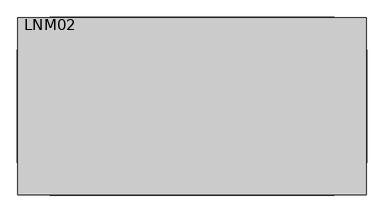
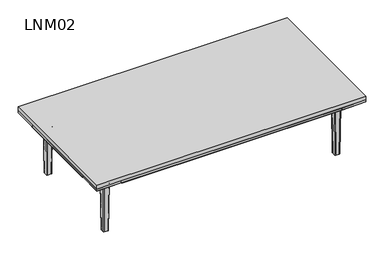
"""IFC4 building model written with IfcOpenShell, lengths in millimetres: furniture geometry, Coffe Tables : LNM02."""

from ifc_helpers import new_model, si_unit, point, frame, origin, place, context, project, spatial, polyline, circle_curve, ellipse_curve, trimmed, outline, extrude, faceted_brep, source, transform, mapped, element, save
from ifc_brep_helpers import plane_surface, cylinder_surface, revolved_surface, extruded_surface, advanced_brep


def lnm02_f6140898(model_context):
    return source(origin(), model_context, "Body", "SolidModel", [
        extrude(outline(polyline([(660.0, -215.0), (660.0, -335.0), (540.0, -335.0), (540.0, -215.0), (660.0, -215.0)])), frame((0.0, 0.0, 290.0), z_axis=(0.0, 0.0, 1.0), x_axis=(1.0, 0.0, 0.0)), (0.0, 0.0, 1.0), 10.0),
        extrude(outline(polyline([(660.0, 335.0), (660.0, 215.0), (540.0, 215.0), (540.0, 335.0), (660.0, 335.0)])), frame((0.0, 0.0, 290.0), z_axis=(0.0, 0.0, 1.0), x_axis=(1.0, 0.0, 0.0)), (0.0, 0.0, 1.0), 10.0),
        extrude(outline(polyline([(-540.0, 335.0), (-540.0, 215.0), (-660.0, 215.0), (-660.0, 335.0), (-540.0, 335.0)])), frame((0.0, 0.0, 290.0), z_axis=(0.0, 0.0, 1.0), x_axis=(1.0, 0.0, 0.0)), (0.0, 0.0, 1.0), 10.0),
        extrude(outline(polyline([(-660.0, 215.0), (-540.0, 215.0), (-540.0, -215.0), (-660.0, -215.0), (-660.0, 215.0)])), frame((0.0, 0.0, 290.0), z_axis=(0.0, 0.0, 1.0), x_axis=(1.0, 0.0, 0.0)), (0.0, 0.0, 1.0), 10.0),
        extrude(outline(polyline([(540.0, 215.0), (660.0, 215.0), (660.0, -215.0), (540.0, -215.0), (540.0, 215.0)])), frame((0.0, 0.0, 290.0), z_axis=(0.0, 0.0, 1.0), x_axis=(1.0, 0.0, 0.0)), (0.0, 0.0, 1.0), 10.0),
        extrude(outline(polyline([(540.0, -215.0), (540.0, -335.0), (-540.0, -335.0), (-540.0, -215.0), (540.0, -215.0)])), frame((0.0, 0.0, 290.0), z_axis=(0.0, 0.0, 1.0), x_axis=(1.0, 0.0, 0.0)), (0.0, 0.0, 1.0), 10.0),
        extrude(outline(polyline([(540.0, 335.0), (540.0, 215.0), (-540.0, 215.0), (-540.0, 335.0), (540.0, 335.0)])), frame((0.0, 0.0, 290.0), z_axis=(0.0, 0.0, 1.0), x_axis=(1.0, 0.0, 0.0)), (0.0, 0.0, 1.0), 10.0),
        extrude(outline(polyline([(290.0, 540.0), (255.0, 540.0), (255.0, 588.7129935), (290.0, 661.7129935), (290.0, 540.0)])), frame((0.0, -215.0, 0.0), z_axis=(0.0, 1.0, 0.0), x_axis=(0.0, 0.0, 1.0)), (0.0, 0.0, 1.0), 430.0),
        extrude(outline(polyline([(290.0, -540.0), (290.0, -661.7129935), (255.0, -588.7129935), (255.0, -540.0), (290.0, -540.0)])), frame((0.0, -215.0, 0.0), z_axis=(0.0, 1.0, 0.0), x_axis=(0.0, 0.0, 1.0)), (0.0, 0.0, 1.0), 430.0),
        extrude(outline(polyline([(215.0, 290.0), (336.7129935, 290.0), (263.7129935, 255.0), (215.0, 255.0), (215.0, 290.0)])), frame((-540.0, 0.0, 0.0), z_axis=(1.0, 0.0, 0.0), x_axis=(0.0, 1.0, 0.0)), (0.0, 0.0, 1.0), 1080.0),
        extrude(outline(polyline([(-215.0, 290.0), (-215.0, 255.0), (-263.7129935, 255.0), (-336.7129935, 290.0), (-215.0, 290.0)])), frame((-540.0, 0.0, 0.0), z_axis=(1.0, 0.0, 0.0), x_axis=(0.0, 1.0, 0.0)), (0.0, 0.0, 1.0), 1080.0),
        faceted_brep([(-540.0, 215.0, 290.0), (-540.0, 335.0, 290.0), (-660.0, 335.0, 290.0), (-660.0, 215.0, 290.0), (-540.0, 215.0, 255.0), (-587.0, 215.0, 255.0), (-587.0, 262.0, 255.0), (-540.0, 262.0, 255.0)], [[[0, 1, 2, 3]], [[4, 5, 6, 7]], [[1, 0, 4, 7]], [[0, 3, 5, 4]], [[6, 2, 1, 7]], [[2, 6, 5, 3]]]),
        advanced_brep(
        [(-547.0, 230.0, 255.0), (-547.0, 254.0, 255.0), (-555.0, 262.0, 255.0), (-579.0, 262.0, 255.0), (-587.0, 254.0, 255.0), (-587.0, 230.0, 255.0), (-579.0, 222.0, 255.0), (-555.0, 222.0, 255.0), (-579.0, 227.0, 245.0), (-582.0, 230.0, 245.0), (-582.0, 254.0, 245.0), (-579.0, 257.0, 245.0), (-555.0, 257.0, 245.0), (-552.0, 254.0, 245.0), (-552.0, 230.0, 245.0), (-555.0, 227.0, 245.0), (-547.0, 230.0, 252.0), (-547.0, 254.0, 252.0), (-555.0, 262.0, 252.0), (-579.0, 262.0, 252.0), (-587.0, 254.0, 252.0), (-587.0, 230.0, 252.0), (-579.0, 222.0, 252.0), (-555.0, 222.0, 252.0)],
        [
            (0, 1),
            (1, 2, circle_curve(frame((-555.0, 254.0, 255.0), z_axis=(0.0, 0.0, 1.0), x_axis=(0.0, -1.0000000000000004, 0.0)), 8.0)),
            (2, 3),
            (3, 4, circle_curve(frame((-579.0, 254.0, 255.0), z_axis=(0.0, 0.0, 1.0), x_axis=(0.0, -1.0000000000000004, 0.0)), 8.0)),
            (4, 5),
            (5, 6, circle_curve(frame((-579.0, 230.0, 255.0), z_axis=(0.0, 0.0, 1.0), x_axis=(0.0, -1.0000000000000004, 0.0)), 8.0)),
            (6, 7),
            (7, 0, circle_curve(frame((-555.0, 230.0, 255.0), z_axis=(0.0, 0.0, 1.0), x_axis=(0.0, -1.0000000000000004, 0.0)), 8.0)),
            (8, 9, circle_curve(frame((-579.0, 230.0, 245.0), z_axis=(0.0, 0.0, -1.0), x_axis=(0.0, -1.0000000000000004, 0.0)), 3.0)),
            (9, 10),
            (10, 11, circle_curve(frame((-579.0, 254.0, 245.0), z_axis=(0.0, 0.0, -1.0), x_axis=(-1.0000000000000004, 0.0, 0.0)), 3.0)),
            (11, 12),
            (12, 13, circle_curve(frame((-555.0, 254.0, 245.0), z_axis=(0.0, 0.0, -1.0), x_axis=(0.0, 1.0000000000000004, 0.0)), 3.0)),
            (13, 14),
            (14, 15, circle_curve(frame((-555.0, 230.0, 245.0), z_axis=(0.0, 0.0, -1.0), x_axis=(1.0000000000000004, 0.0, 0.0)), 3.0)),
            (15, 8),
            (0, 16),
            (16, 17),
            (17, 1),
            (17, 18, circle_curve(frame((-555.0, 254.0, 252.0), z_axis=(0.0, 0.0, 1.0), x_axis=(0.0, -1.0000000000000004, 0.0)), 8.0)),
            (18, 2),
            (18, 19),
            (19, 3),
            (19, 20, circle_curve(frame((-579.0, 254.0, 252.0), z_axis=(0.0, 0.0, 1.0), x_axis=(0.0, -1.0000000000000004, 0.0)), 8.0)),
            (20, 4),
            (20, 21),
            (21, 5),
            (21, 22, circle_curve(frame((-579.0, 230.0, 252.0), z_axis=(0.0, 0.0, 1.0), x_axis=(0.0, -1.0000000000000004, 0.0)), 8.0)),
            (22, 6),
            (22, 23),
            (23, 7),
            (23, 16, circle_curve(frame((-555.0, 230.0, 252.0), z_axis=(0.0, 0.0, 1.0), x_axis=(0.0, -1.0000000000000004, 0.0)), 8.0)),
            (21, 9, circle_curve(frame((-590.9600528, 230.0, 243.8856766), z_axis=(0.0, 1.0000000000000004, 0.0), x_axis=(-1.0000000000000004, 0.0, 0.0)), 9.0290787)),
            (8, 22, circle_curve(frame((-579.0, 218.0399472, 243.8856766), z_axis=(1.0000000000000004, 0.0, 0.0), x_axis=(0.0, -1.0000000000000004, 0.0)), 9.0290787)),
            (20, 10, circle_curve(frame((-590.9600528, 254.0, 243.8856766), z_axis=(0.0, 1.0, 0.0), x_axis=(-1.0000000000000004, 0.0, 0.0)), 9.0290787)),
            (19, 11, circle_curve(frame((-579.0, 265.9600528, 243.8856766), z_axis=(1.0000000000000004, 0.0, 0.0), x_axis=(0.0, 1.0000000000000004, 0.0)), 9.0290787)),
            (18, 12, circle_curve(frame((-555.0, 265.9600528, 243.8856766), z_axis=(1.0, 0.0, 0.0), x_axis=(0.0, 1.0000000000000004, 0.0)), 9.0290787)),
            (17, 13, circle_curve(frame((-543.0399472, 254.0, 243.8856766), z_axis=(0.0, -1.0000000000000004, 0.0), x_axis=(1.0000000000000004, 0.0, 0.0)), 9.0290787)),
            (16, 14, circle_curve(frame((-543.0399472, 230.0, 243.8856766), z_axis=(0.0, -1.0, 0.0), x_axis=(1.0000000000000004, 0.0, 0.0)), 9.0290787)),
            (23, 15, circle_curve(frame((-555.0, 218.0399472, 243.8856766), z_axis=(-1.0000000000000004, 0.0, 0.0), x_axis=(0.0, -1.0000000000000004, 0.0)), 9.0290787)),
        ],
        [
            plane_surface(frame((-547.0, 915.663284, 255.0), z_axis=(0.0, 0.0, 1.0), x_axis=(0.0, 1.0, 0.0))),
            plane_surface(frame((-547.0, 915.663284, 245.0), z_axis=(0.0, 0.0, -1.0), x_axis=(0.0, -1.0, 0.0))),
            plane_surface(frame((-547.0, 230.0, 255.0), z_axis=(1.0, 0.0, 0.0), x_axis=(0.0, 0.0, -1.0))),
            cylinder_surface(frame((-555.0, 254.0, 245.0), z_axis=(0.0, 0.0, 1.0), x_axis=(0.0, -1.0000000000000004, 0.0)), 8.0),
            plane_surface(frame((-555.0, 262.0, 255.0), z_axis=(0.0, 1.0, 0.0), x_axis=(0.0, 0.0, -1.0))),
            cylinder_surface(frame((-579.0, 254.0, 245.0), z_axis=(0.0, 0.0, 1.0), x_axis=(0.0, -1.0000000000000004, 0.0)), 8.0),
            plane_surface(frame((-587.0, 254.0, 255.0), z_axis=(-1.0, 0.0, 0.0), x_axis=(0.0, 0.0, -1.0))),
            cylinder_surface(frame((-579.0, 230.0, 245.0), z_axis=(0.0, 0.0, 1.0), x_axis=(0.0, -1.0000000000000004, 0.0)), 8.0),
            plane_surface(frame((-579.0, 222.0, 255.0), z_axis=(0.0, -1.0, 0.0), x_axis=(0.0, 0.0, -1.0))),
            cylinder_surface(frame((-555.0, 230.0, 245.0), z_axis=(0.0, 0.0, 1.0), x_axis=(0.0, -1.0000000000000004, 0.0)), 8.0),
            revolved_surface(trimmed(ellipse_curve(frame((-579.0, 218.0399472, 243.8856766), z_axis=(-1.0000000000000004, 0.0, 0.0), x_axis=(0.0, -1.0000000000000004, 0.0)), 9.0290787, 9.0290787), [point((-579.0, 222.0, 252.0))], [point((-579.0, 227.0, 245.0))], True, "CARTESIAN"), (-579.0, 230.0, 0.0), (0.0, 0.0, -1.0)),
            revolved_surface(polyline([(-599.9891315, 230.0, 243.8856766), (-599.9891315, 254.00000000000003, 243.8856766)]), (-590.9600528, 230.0, 243.8856766), (0.0, -1.0000000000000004, 0.0)),
            revolved_surface(trimmed(ellipse_curve(frame((-590.9600528, 254.0, 243.8856766), z_axis=(0.0, 1.0000000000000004, 0.0), x_axis=(-1.0000000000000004, 0.0, 0.0)), 9.0290787, 9.0290787), [point((-587.0, 254.0, 252.0))], [point((-582.0, 254.0, 245.0))], True, "CARTESIAN"), (-579.0, 254.0, 0.0), (0.0, 0.0, -1.0)),
            revolved_surface(polyline([(-579.0, 274.98913150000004, 243.8856766), (-555.0, 274.98913150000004, 243.8856766)]), (-579.0, 265.9600528, 243.8856766), (-1.0000000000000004, 0.0, 0.0)),
            revolved_surface(trimmed(ellipse_curve(frame((-555.0, 265.9600528, 243.8856766), z_axis=(1.0000000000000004, 0.0, 0.0), x_axis=(0.0, 1.0000000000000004, 0.0)), 9.0290787, 9.0290787), [point((-555.0, 262.0, 252.0))], [point((-555.0, 257.0, 245.0))], True, "CARTESIAN"), (-555.0, 254.0, 0.0), (0.0, 0.0, -1.0)),
            revolved_surface(polyline([(-534.0108685, 254.0, 243.8856766), (-534.0108685, 229.99999999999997, 243.8856766)]), (-543.0399472, 254.0, 243.8856766), (0.0, 1.0000000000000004, 0.0)),
            revolved_surface(trimmed(ellipse_curve(frame((-543.0399472, 230.0, 243.8856766), z_axis=(0.0, -1.0000000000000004, 0.0), x_axis=(1.0000000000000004, 0.0, 0.0)), 9.0290787, 9.0290787), [point((-547.0, 230.0, 252.0))], [point((-552.0, 230.0, 245.0))], True, "CARTESIAN"), (-555.0, 230.0, 0.0), (0.0, 0.0, -1.0)),
            revolved_surface(polyline([(-555.0, 209.0108685, 243.8856766), (-579.0, 209.0108685, 243.8856766)]), (-555.0, 218.0399472, 243.8856766), (1.0000000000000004, 0.0, 0.0)),
        ],
        [
            (0, [[1, 2, 3, 4, 5, 6, 7, 8]]),
            (1, [[9, 10, 11, 12, 13, 14, 15, 16]]),
            (2, [[-1, 17, 18, 19]]),
            (3, [[-2, -19, 20, 21]]),
            (4, [[-3, -21, 22, 23]]),
            (5, [[-4, -23, 24, 25]]),
            (6, [[-5, -25, 26, 27]]),
            (7, [[-6, -27, 28, 29]]),
            (8, [[-7, -29, 30, 31]]),
            (9, [[-8, -31, 32, -17]]),
            (10, [[33, -9, 34, -28]]),
            (11, [[-33, -26, 35, -10]]),
            (12, [[-35, -24, 36, -11]]),
            (13, [[-36, -22, 37, -12]]),
            (14, [[-37, -20, 38, -13]]),
            (15, [[-38, -18, 39, -14]]),
            (16, [[-39, -32, 40, -15]]),
            (17, [[-34, -16, -40, -30]]),
        ],
    ),
        advanced_brep(
        [(-579.0, 257.0, 245.0), (-582.0, 254.0, 245.0), (-582.0, 230.0, 245.0), (-579.0, 227.0, 245.0), (-555.0, 227.0, 245.0), (-552.0, 230.0, 245.0), (-552.0, 254.0, 245.0), (-555.0, 257.0, 245.0), (-576.0, 254.0, 0.0), (-558.0, 254.0, 0.0), (-555.0, 251.0, 0.0), (-555.0, 233.0, 0.0), (-558.0, 230.0, 0.0), (-576.0, 230.0, 0.0), (-579.0, 233.0, 0.0), (-579.0, 251.0, 0.0)],
        [
            (0, 1, circle_curve(frame((-579.0, 254.0, 245.0), z_axis=(0.0, 0.0, 1.0), x_axis=(0.0, -1.0, 0.0)), 3.0)),
            (1, 2),
            (2, 3, circle_curve(frame((-579.0, 230.0, 245.0), z_axis=(0.0, 0.0, 1.0), x_axis=(0.0, -1.0, 0.0)), 3.0)),
            (3, 4),
            (4, 5, circle_curve(frame((-555.0, 230.0, 245.0), z_axis=(0.0, 0.0, 1.0), x_axis=(0.0, -1.0, 0.0)), 3.0)),
            (5, 6),
            (6, 7, circle_curve(frame((-555.0, 254.0, 245.0), z_axis=(0.0, 0.0, 1.0), x_axis=(0.0, -1.0, 0.0)), 3.0)),
            (7, 0),
            (8, 9),
            (9, 10, circle_curve(frame((-558.0, 251.0, 0.0), z_axis=(0.0, 0.0, -1.0), x_axis=(0.0, -1.0, 0.0)), 3.0)),
            (10, 11),
            (11, 12, circle_curve(frame((-558.0, 233.0, 0.0), z_axis=(0.0, 0.0, -1.0), x_axis=(0.0, -1.0, 0.0)), 3.0)),
            (12, 13),
            (13, 14, circle_curve(frame((-576.0, 233.0, 0.0), z_axis=(0.0, 0.0, -1.0), x_axis=(0.0, -1.0, 0.0)), 3.0)),
            (14, 15),
            (15, 8, circle_curve(frame((-576.0, 251.0, 0.0), z_axis=(0.0, 0.0, -1.0), x_axis=(0.0, -1.0, 0.0)), 3.0)),
            (15, 1),
            (0, 8),
            (14, 2),
            (13, 3),
            (12, 4),
            (11, 5),
            (10, 6),
            (9, 7),
        ],
        [
            plane_surface(frame((-567.0, 242.0, 245.0), z_axis=(0.0, 0.0, 1.0), x_axis=(0.0, 1.0, 0.0))),
            plane_surface(frame((-567.0, 242.0, 0.0), z_axis=(0.0, 0.0, -1.0), x_axis=(0.0, 1.0, 0.0))),
            extruded_surface(trimmed(circle_curve(frame((-576.0, 251.0, 0.0), z_axis=(0.0, 0.0, 1.0), x_axis=(0.0, -1.0, 0.0)), 3.0), [point((-576.0, 254.0, 0.0))], [point((-579.0, 251.0, 0.0))], True, "CARTESIAN"), (-3.0, 3.0, 245.0), 245.03673194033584),
            plane_surface(frame((-579.0, 242.0, 0.0), z_axis=(-0.9999250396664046, 0.0, -0.012243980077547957), x_axis=(0.0, -1.0, 0.0))),
            extruded_surface(trimmed(circle_curve(frame((-576.0, 233.0, 0.0), z_axis=(0.0, 0.0, 1.0), x_axis=(0.0, -1.0, 0.0)), 3.0), [point((-579.0, 233.0, 0.0))], [point((-576.0, 230.0, 0.0))], True, "CARTESIAN"), (-3.0, -3.0, 245.0), 245.03673194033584),
            plane_surface(frame((-567.0, 230.0, 0.0), z_axis=(0.0, -0.9999250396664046, -0.012243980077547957), x_axis=(1.0, 0.0, 0.0))),
            extruded_surface(trimmed(circle_curve(frame((-558.0, 233.0, 0.0), z_axis=(0.0, 0.0, 1.0), x_axis=(0.0, -1.0, 0.0)), 3.0), [point((-558.0, 230.0, 0.0))], [point((-555.0, 233.0, 0.0))], True, "CARTESIAN"), (3.0, -3.0, 245.0), 245.03673194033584),
            plane_surface(frame((-555.0, 242.0, 0.0), z_axis=(0.9999250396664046, 0.0, -0.012243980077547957), x_axis=(0.0, 1.0, 0.0))),
            extruded_surface(trimmed(circle_curve(frame((-558.0, 251.0, 0.0), z_axis=(0.0, 0.0, 1.0), x_axis=(0.0, -1.0, 0.0)), 3.0), [point((-555.0, 251.0, 0.0))], [point((-558.0, 254.0, 0.0))], True, "CARTESIAN"), (3.0, 3.0, 245.0), 245.03673194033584),
            plane_surface(frame((-567.0, 254.0, 0.0), z_axis=(0.0, 0.9999250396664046, -0.012243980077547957), x_axis=(-1.0, 0.0, 0.0))),
        ],
        [
            (0, [[1, 2, 3, 4, 5, 6, 7, 8]]),
            (1, [[9, 10, 11, 12, 13, 14, 15, 16]]),
            (2, [[-16, 17, -1, 18]]),
            (3, [[-15, 19, -2, -17]]),
            (4, [[-14, 20, -3, -19]]),
            (5, [[-13, 21, -4, -20]]),
            (6, [[-12, 22, -5, -21]]),
            (7, [[-11, 23, -6, -22]]),
            (8, [[-10, 24, -7, -23]]),
            (9, [[-9, -18, -8, -24]]),
        ],
    ),
        faceted_brep([(540.0, -215.0, 290.0), (540.0, -335.0, 290.0), (660.0, -335.0, 290.0), (660.0, -215.0, 290.0), (540.0, -215.0, 255.0), (587.0, -215.0, 255.0), (587.0, -262.0, 255.0), (540.0, -262.0, 255.0)], [[[0, 1, 2, 3]], [[4, 5, 6, 7]], [[1, 0, 4, 7]], [[0, 3, 5, 4]], [[6, 2, 1, 7]], [[2, 6, 5, 3]]]),
        advanced_brep(
        [(547.0, -230.0, 255.0), (547.0, -254.0, 255.0), (555.0, -262.0, 255.0), (579.0, -262.0, 255.0), (587.0, -254.0, 255.0), (587.0, -230.0, 255.0), (579.0, -222.0, 255.0), (555.0, -222.0, 255.0), (579.0, -227.0, 245.0), (582.0, -230.0, 245.0), (582.0, -254.0, 245.0), (579.0, -257.0, 245.0), (555.0, -257.0, 245.0), (552.0, -254.0, 245.0), (552.0, -230.0, 245.0), (555.0, -227.0, 245.0), (547.0, -230.0, 252.0), (547.0, -254.0, 252.0), (555.0, -262.0, 252.0), (579.0, -262.0, 252.0), (587.0, -254.0, 252.0), (587.0, -230.0, 252.0), (579.0, -222.0, 252.0), (555.0, -222.0, 252.0)],
        [
            (0, 1),
            (1, 2, circle_curve(frame((555.0, -254.0, 255.0), z_axis=(0.0, 0.0, 1.0), x_axis=(0.0, 1.0000000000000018, 0.0)), 8.0)),
            (2, 3),
            (3, 4, circle_curve(frame((579.0, -254.0, 255.0), z_axis=(0.0, 0.0, 1.0), x_axis=(0.0, 1.0000000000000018, 0.0)), 8.0)),
            (4, 5),
            (5, 6, circle_curve(frame((579.0, -230.0, 255.0), z_axis=(0.0, 0.0, 1.0), x_axis=(0.0, 1.0000000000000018, 0.0)), 8.0)),
            (6, 7),
            (7, 0, circle_curve(frame((555.0, -230.0, 255.0), z_axis=(0.0, 0.0, 1.0), x_axis=(0.0, 1.0000000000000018, 0.0)), 8.0)),
            (8, 9, circle_curve(frame((579.0, -230.0, 245.0), z_axis=(0.0, 0.0, -1.0), x_axis=(0.0, 1.0000000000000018, 0.0)), 3.0)),
            (9, 10),
            (10, 11, circle_curve(frame((579.0, -254.0, 245.0), z_axis=(0.0, 0.0, -1.0), x_axis=(1.0000000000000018, 0.0, 0.0)), 3.0)),
            (11, 12),
            (12, 13, circle_curve(frame((555.0, -254.0, 245.0), z_axis=(0.0, 0.0, -1.0), x_axis=(0.0, -1.0000000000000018, 0.0)), 3.0)),
            (13, 14),
            (14, 15, circle_curve(frame((555.0, -230.0, 245.0), z_axis=(0.0, 0.0, -1.0), x_axis=(-1.0000000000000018, 0.0, 0.0)), 3.0)),
            (15, 8),
            (0, 16),
            (16, 17),
            (17, 1),
            (17, 18, circle_curve(frame((555.0, -254.0, 252.0), z_axis=(0.0, 0.0, 1.0), x_axis=(0.0, 1.0000000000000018, 0.0)), 8.0)),
            (18, 2),
            (18, 19),
            (19, 3),
            (19, 20, circle_curve(frame((579.0, -254.0, 252.0), z_axis=(0.0, 0.0, 1.0), x_axis=(0.0, 1.0000000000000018, 0.0)), 8.0)),
            (20, 4),
            (20, 21),
            (21, 5),
            (21, 22, circle_curve(frame((579.0, -230.0, 252.0), z_axis=(0.0, 0.0, 1.0), x_axis=(0.0, 1.0000000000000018, 0.0)), 8.0)),
            (22, 6),
            (22, 23),
            (23, 7),
            (23, 16, circle_curve(frame((555.0, -230.0, 252.0), z_axis=(0.0, 0.0, 1.0), x_axis=(0.0, 1.0000000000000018, 0.0)), 8.0)),
            (21, 9, circle_curve(frame((590.9600528, -230.0, 243.8856766), z_axis=(0.0, -1.0000000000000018, 0.0), x_axis=(1.0000000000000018, 0.0, 0.0)), 9.0290787)),
            (8, 22, circle_curve(frame((579.0, -218.0399472, 243.8856766), z_axis=(-1.0000000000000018, 0.0, 0.0), x_axis=(0.0, 1.0000000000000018, 0.0)), 9.0290787)),
            (20, 10, circle_curve(frame((590.9600528, -254.0, 243.8856766), z_axis=(0.0, -1.0, 0.0), x_axis=(1.0000000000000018, 0.0, 0.0)), 9.0290787)),
            (19, 11, circle_curve(frame((579.0, -265.9600528, 243.8856766), z_axis=(-1.0000000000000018, 0.0, 0.0), x_axis=(0.0, -1.0000000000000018, 0.0)), 9.0290787)),
            (18, 12, circle_curve(frame((555.0, -265.9600528, 243.8856766), z_axis=(-1.0, 0.0, 0.0), x_axis=(0.0, -1.0000000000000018, 0.0)), 9.0290787)),
            (17, 13, circle_curve(frame((543.0399472, -254.0, 243.8856766), z_axis=(0.0, 1.0000000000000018, 0.0), x_axis=(-1.0000000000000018, 0.0, 0.0)), 9.0290787)),
            (16, 14, circle_curve(frame((543.0399472, -230.0, 243.8856766), z_axis=(0.0, 1.0, 0.0), x_axis=(-1.0000000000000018, 0.0, 0.0)), 9.0290787)),
            (23, 15, circle_curve(frame((555.0, -218.0399472, 243.8856766), z_axis=(1.0000000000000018, 0.0, 0.0), x_axis=(0.0, 1.0000000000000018, 0.0)), 9.0290787)),
        ],
        [
            plane_surface(frame((547.0, -915.663284, 255.0), z_axis=(0.0, 0.0, 1.0), x_axis=(0.0, -1.0, 0.0))),
            plane_surface(frame((547.0, -915.663284, 245.0), z_axis=(0.0, 0.0, -1.0), x_axis=(0.0, 1.0, 0.0))),
            plane_surface(frame((547.0, -230.0, 255.0), z_axis=(-1.0, 0.0, 0.0), x_axis=(0.0, 0.0, -1.0))),
            cylinder_surface(frame((555.0, -254.0, 245.0), z_axis=(0.0, 0.0, 1.0), x_axis=(0.0, 1.0000000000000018, 0.0)), 8.0),
            plane_surface(frame((555.0, -262.0, 255.0), z_axis=(0.0, -1.0, 0.0), x_axis=(0.0, 0.0, -1.0))),
            cylinder_surface(frame((579.0, -254.0, 245.0), z_axis=(0.0, 0.0, 1.0), x_axis=(0.0, 1.0000000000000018, 0.0)), 8.0),
            plane_surface(frame((587.0, -254.0, 255.0), z_axis=(1.0, 0.0, 0.0), x_axis=(0.0, 0.0, -1.0))),
            cylinder_surface(frame((579.0, -230.0, 245.0), z_axis=(0.0, 0.0, 1.0), x_axis=(0.0, 1.0000000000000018, 0.0)), 8.0),
            plane_surface(frame((579.0, -222.0, 255.0), z_axis=(0.0, 1.0, 0.0), x_axis=(0.0, 0.0, -1.0))),
            cylinder_surface(frame((555.0, -230.0, 245.0), z_axis=(0.0, 0.0, 1.0), x_axis=(0.0, 1.0000000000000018, 0.0)), 8.0),
            revolved_surface(trimmed(ellipse_curve(frame((579.0, -218.0399472, 243.8856766), z_axis=(1.0000000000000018, 0.0, 0.0), x_axis=(0.0, 1.0000000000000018, 0.0)), 9.0290787, 9.0290787), [point((579.0, -222.0, 252.0))], [point((579.0, -227.0, 245.0))], True, "CARTESIAN"), (579.0, -230.0, 0.0), (0.0, 0.0, -1.0)),
            revolved_surface(polyline([(599.9891315, -230.0, 243.8856766), (599.9891315, -254.00000000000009, 243.8856766)]), (590.9600528, -230.0, 243.8856766), (0.0, 1.0000000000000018, 0.0)),
            revolved_surface(trimmed(ellipse_curve(frame((590.9600528, -254.0, 243.8856766), z_axis=(0.0, -1.0000000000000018, 0.0), x_axis=(1.0000000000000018, 0.0, 0.0)), 9.0290787, 9.0290787), [point((587.0, -254.0, 252.0))], [point((582.0, -254.0, 245.0))], True, "CARTESIAN"), (579.0, -254.0, 0.0), (0.0, 0.0, -1.0)),
            revolved_surface(polyline([(579.0, -274.98913150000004, 243.8856766), (554.9999999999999, -274.98913150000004, 243.8856766)]), (579.0, -265.9600528, 243.8856766), (1.0000000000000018, 0.0, 0.0)),
            revolved_surface(trimmed(ellipse_curve(frame((555.0, -265.9600528, 243.8856766), z_axis=(-1.0000000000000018, 0.0, 0.0), x_axis=(0.0, -1.0000000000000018, 0.0)), 9.0290787, 9.0290787), [point((555.0, -262.0, 252.0))], [point((555.0, -257.0, 245.0))], True, "CARTESIAN"), (555.0, -254.0, 0.0), (0.0, 0.0, -1.0)),
            revolved_surface(polyline([(534.0108685, -254.0, 243.8856766), (534.0108685, -229.99999999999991, 243.8856766)]), (543.0399472, -254.0, 243.8856766), (0.0, -1.0000000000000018, 0.0)),
            revolved_surface(trimmed(ellipse_curve(frame((543.0399472, -230.0, 243.8856766), z_axis=(0.0, 1.0000000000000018, 0.0), x_axis=(-1.0000000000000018, 0.0, 0.0)), 9.0290787, 9.0290787), [point((547.0, -230.0, 252.0))], [point((552.0, -230.0, 245.0))], True, "CARTESIAN"), (555.0, -230.0, 0.0), (0.0, 0.0, -1.0)),
            revolved_surface(polyline([(555.0, -209.0108685, 243.8856766), (579.0000000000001, -209.0108685, 243.8856766)]), (555.0, -218.0399472, 243.8856766), (-1.0000000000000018, 0.0, 0.0)),
        ],
        [
            (0, [[1, 2, 3, 4, 5, 6, 7, 8]]),
            (1, [[9, 10, 11, 12, 13, 14, 15, 16]]),
            (2, [[-1, 17, 18, 19]]),
            (3, [[-2, -19, 20, 21]]),
            (4, [[-3, -21, 22, 23]]),
            (5, [[-4, -23, 24, 25]]),
            (6, [[-5, -25, 26, 27]]),
            (7, [[-6, -27, 28, 29]]),
            (8, [[-7, -29, 30, 31]]),
            (9, [[-8, -31, 32, -17]]),
            (10, [[33, -9, 34, -28]]),
            (11, [[-33, -26, 35, -10]]),
            (12, [[-35, -24, 36, -11]]),
            (13, [[-36, -22, 37, -12]]),
            (14, [[-37, -20, 38, -13]]),
            (15, [[-38, -18, 39, -14]]),
            (16, [[-39, -32, 40, -15]]),
            (17, [[-34, -16, -40, -30]]),
        ],
    ),
        advanced_brep(
        [(579.0, -257.0, 245.0), (582.0, -254.0, 245.0), (582.0, -230.0, 245.0), (579.0, -227.0, 245.0), (555.0, -227.0, 245.0), (552.0, -230.0, 245.0), (552.0, -254.0, 245.0), (555.0, -257.0, 245.0), (576.0, -254.0, 0.0), (558.0, -254.0, 0.0), (555.0, -251.0, 0.0), (555.0, -233.0, 0.0), (558.0, -230.0, 0.0), (576.0, -230.0, 0.0), (579.0, -233.0, 0.0), (579.0, -251.0, 0.0)],
        [
            (0, 1, circle_curve(frame((579.0, -254.0, 245.0), z_axis=(0.0, 0.0, 1.0), x_axis=(0.0, 1.0, 0.0)), 3.0)),
            (1, 2),
            (2, 3, circle_curve(frame((579.0, -230.0, 245.0), z_axis=(0.0, 0.0, 1.0), x_axis=(0.0, 1.0, 0.0)), 3.0)),
            (3, 4),
            (4, 5, circle_curve(frame((555.0, -230.0, 245.0), z_axis=(0.0, 0.0, 1.0), x_axis=(0.0, 1.0, 0.0)), 3.0)),
            (5, 6),
            (6, 7, circle_curve(frame((555.0, -254.0, 245.0), z_axis=(0.0, 0.0, 1.0), x_axis=(0.0, 1.0, 0.0)), 3.0)),
            (7, 0),
            (8, 9),
            (9, 10, circle_curve(frame((558.0, -251.0, 0.0), z_axis=(0.0, 0.0, -1.0), x_axis=(0.0, 1.0, 0.0)), 3.0)),
            (10, 11),
            (11, 12, circle_curve(frame((558.0, -233.0, 0.0), z_axis=(0.0, 0.0, -1.0), x_axis=(0.0, 1.0, 0.0)), 3.0)),
            (12, 13),
            (13, 14, circle_curve(frame((576.0, -233.0, 0.0), z_axis=(0.0, 0.0, -1.0), x_axis=(0.0, 1.0, 0.0)), 3.0)),
            (14, 15),
            (15, 8, circle_curve(frame((576.0, -251.0, 0.0), z_axis=(0.0, 0.0, -1.0), x_axis=(0.0, 1.0, 0.0)), 3.0)),
            (15, 1),
            (0, 8),
            (14, 2),
            (13, 3),
            (12, 4),
            (11, 5),
            (10, 6),
            (9, 7),
        ],
        [
            plane_surface(frame((567.0, -242.0, 245.0), z_axis=(0.0, 0.0, 1.0), x_axis=(0.0, -1.0, 0.0))),
            plane_surface(frame((567.0, -242.0, 0.0), z_axis=(0.0, 0.0, -1.0), x_axis=(0.0, -1.0, 0.0))),
            extruded_surface(trimmed(circle_curve(frame((576.0, -251.0, 0.0), z_axis=(0.0, 0.0, 1.0), x_axis=(0.0, 1.0, 0.0)), 3.0), [point((576.0, -254.0, 0.0))], [point((579.0, -251.0, 0.0))], True, "CARTESIAN"), (3.0, -3.0, 245.0), 245.03673194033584),
            plane_surface(frame((579.0, -242.0, 0.0), z_axis=(0.9999250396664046, 0.0, -0.012243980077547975), x_axis=(0.0, 1.0, 0.0))),
            extruded_surface(trimmed(circle_curve(frame((576.0, -233.0, 0.0), z_axis=(0.0, 0.0, 1.0), x_axis=(0.0, 1.0, 0.0)), 3.0), [point((579.0, -233.0, 0.0))], [point((576.0, -230.0, 0.0))], True, "CARTESIAN"), (3.0, 3.0, 245.0), 245.03673194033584),
            plane_surface(frame((567.0, -230.0, 0.0), z_axis=(0.0, 0.9999250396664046, -0.012243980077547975), x_axis=(-1.0, 0.0, 0.0))),
            extruded_surface(trimmed(circle_curve(frame((558.0, -233.0, 0.0), z_axis=(0.0, 0.0, 1.0), x_axis=(0.0, 1.0, 0.0)), 3.0), [point((558.0, -230.0, 0.0))], [point((555.0, -233.0, 0.0))], True, "CARTESIAN"), (-3.0, 3.0, 245.0), 245.03673194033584),
            plane_surface(frame((555.0, -242.0, 0.0), z_axis=(-0.9999250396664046, 0.0, -0.012243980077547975), x_axis=(0.0, -1.0, 0.0))),
            extruded_surface(trimmed(circle_curve(frame((558.0, -251.0, 0.0), z_axis=(0.0, 0.0, 1.0), x_axis=(0.0, 1.0, 0.0)), 3.0), [point((555.0, -251.0, 0.0))], [point((558.0, -254.0, 0.0))], True, "CARTESIAN"), (-3.0, -3.0, 245.0), 245.03673194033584),
            plane_surface(frame((567.0, -254.0, 0.0), z_axis=(0.0, -0.9999250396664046, -0.012243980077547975), x_axis=(1.0, 0.0, 0.0))),
        ],
        [
            (0, [[1, 2, 3, 4, 5, 6, 7, 8]]),
            (1, [[9, 10, 11, 12, 13, 14, 15, 16]]),
            (2, [[-16, 17, -1, 18]]),
            (3, [[-15, 19, -2, -17]]),
            (4, [[-14, 20, -3, -19]]),
            (5, [[-13, 21, -4, -20]]),
            (6, [[-12, 22, -5, -21]]),
            (7, [[-11, 23, -6, -22]]),
            (8, [[-10, 24, -7, -23]]),
            (9, [[-9, -18, -8, -24]]),
        ],
    ),
        faceted_brep([(540.0, 215.0, 290.0), (660.0, 215.0, 290.0), (660.0, 335.0, 290.0), (540.0, 335.0, 290.0), (540.0, 215.0, 255.0), (540.0, 262.0, 255.0), (587.0, 262.0, 255.0), (587.0, 215.0, 255.0)], [[[0, 1, 2, 3]], [[4, 5, 6, 7]], [[1, 0, 4, 7]], [[0, 3, 5, 4]], [[6, 2, 1, 7]], [[2, 6, 5, 3]]]),
        advanced_brep(
        [(555.0, 222.0, 255.0), (579.0, 222.0, 255.0), (587.0, 230.0, 255.0), (587.0, 254.0, 255.0), (579.0, 262.0, 255.0), (555.0, 262.0, 255.0), (547.0, 254.0, 255.0), (547.0, 230.0, 255.0), (552.0, 254.0, 245.0), (555.0, 257.0, 245.0), (579.0, 257.0, 245.0), (582.0, 254.0, 245.0), (582.0, 230.0, 245.0), (579.0, 227.0, 245.0), (555.0, 227.0, 245.0), (552.0, 230.0, 245.0), (555.0, 222.0, 252.0), (579.0, 222.0, 252.0), (587.0, 230.0, 252.0), (587.0, 254.0, 252.0), (579.0, 262.0, 252.0), (555.0, 262.0, 252.0), (547.0, 254.0, 252.0), (547.0, 230.0, 252.0)],
        [
            (0, 1),
            (1, 2, circle_curve(frame((579.0, 230.0, 255.0), z_axis=(0.0, 0.0, 1.0), x_axis=(-1.0000000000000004, 0.0, 0.0)), 8.0)),
            (2, 3),
            (3, 4, circle_curve(frame((579.0, 254.0, 255.0), z_axis=(0.0, 0.0, 1.0), x_axis=(-1.0000000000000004, 0.0, 0.0)), 8.0)),
            (4, 5),
            (5, 6, circle_curve(frame((555.0, 254.0, 255.0), z_axis=(0.0, 0.0, 1.0), x_axis=(-1.0000000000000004, 0.0, 0.0)), 8.0)),
            (6, 7),
            (7, 0, circle_curve(frame((555.0, 230.0, 255.0), z_axis=(0.0, 0.0, 1.0), x_axis=(-1.0000000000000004, 0.0, 0.0)), 8.0)),
            (8, 9, circle_curve(frame((555.0, 254.0, 245.0), z_axis=(0.0, 0.0, -1.0), x_axis=(-1.0000000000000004, 0.0, 0.0)), 3.0)),
            (9, 10),
            (10, 11, circle_curve(frame((579.0, 254.0, 245.0), z_axis=(0.0, 0.0, -1.0), x_axis=(0.0, 1.0000000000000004, 0.0)), 3.0)),
            (11, 12),
            (12, 13, circle_curve(frame((579.0, 230.0, 245.0), z_axis=(0.0, 0.0, -1.0), x_axis=(1.0000000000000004, 0.0, 0.0)), 3.0)),
            (13, 14),
            (14, 15, circle_curve(frame((555.0, 230.0, 245.0), z_axis=(0.0, 0.0, -1.0), x_axis=(0.0, -1.0000000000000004, 0.0)), 3.0)),
            (15, 8),
            (0, 16),
            (16, 17),
            (17, 1),
            (17, 18, circle_curve(frame((579.0, 230.0, 252.0), z_axis=(0.0, 0.0, 1.0), x_axis=(-1.0000000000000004, 0.0, 0.0)), 8.0)),
            (18, 2),
            (18, 19),
            (19, 3),
            (19, 20, circle_curve(frame((579.0, 254.0, 252.0), z_axis=(0.0, 0.0, 1.0), x_axis=(-1.0000000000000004, 0.0, 0.0)), 8.0)),
            (20, 4),
            (20, 21),
            (21, 5),
            (21, 22, circle_curve(frame((555.0, 254.0, 252.0), z_axis=(0.0, 0.0, 1.0), x_axis=(-1.0000000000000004, 0.0, 0.0)), 8.0)),
            (22, 6),
            (22, 23),
            (23, 7),
            (23, 16, circle_curve(frame((555.0, 230.0, 252.0), z_axis=(0.0, 0.0, 1.0), x_axis=(-1.0000000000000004, 0.0, 0.0)), 8.0)),
            (21, 9, circle_curve(frame((555.0, 265.9600528, 243.8856766), z_axis=(1.0000000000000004, 0.0, 0.0), x_axis=(0.0, 1.0000000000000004, 0.0)), 9.0290787)),
            (8, 22, circle_curve(frame((543.0399472, 254.0, 243.8856766), z_axis=(0.0, -1.0000000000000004, 0.0), x_axis=(-1.0000000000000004, 0.0, 0.0)), 9.0290787)),
            (20, 10, circle_curve(frame((579.0, 265.9600528, 243.8856766), z_axis=(1.0, 0.0, 0.0), x_axis=(0.0, 1.0000000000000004, 0.0)), 9.0290787)),
            (19, 11, circle_curve(frame((590.9600528, 254.0, 243.8856766), z_axis=(0.0, -1.0000000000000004, 0.0), x_axis=(1.0000000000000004, 0.0, 0.0)), 9.0290787)),
            (18, 12, circle_curve(frame((590.9600528, 230.0, 243.8856766), z_axis=(0.0, -1.0, 0.0), x_axis=(1.0000000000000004, 0.0, 0.0)), 9.0290787)),
            (17, 13, circle_curve(frame((579.0, 218.0399472, 243.8856766), z_axis=(-1.0000000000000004, 0.0, 0.0), x_axis=(0.0, -1.0000000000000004, 0.0)), 9.0290787)),
            (16, 14, circle_curve(frame((555.0, 218.0399472, 243.8856766), z_axis=(-1.0, 0.0, 0.0), x_axis=(0.0, -1.0000000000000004, 0.0)), 9.0290787)),
            (23, 15, circle_curve(frame((543.0399472, 230.0, 243.8856766), z_axis=(0.0, 1.0000000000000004, 0.0), x_axis=(-1.0000000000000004, 0.0, 0.0)), 9.0290787)),
        ],
        [
            plane_surface(frame((1240.663284, 222.0, 255.0), z_axis=(0.0, 0.0, 1.0), x_axis=(1.0, 0.0, 0.0))),
            plane_surface(frame((1240.663284, 222.0, 245.0), z_axis=(0.0, 0.0, -1.0), x_axis=(-1.0, 0.0, 0.0))),
            plane_surface(frame((555.0, 222.0, 255.0), z_axis=(0.0, -1.0, 0.0), x_axis=(0.0, 0.0, -1.0))),
            cylinder_surface(frame((579.0, 230.0, 245.0), z_axis=(0.0, 0.0, 1.0), x_axis=(-1.0000000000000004, 0.0, 0.0)), 8.0),
            plane_surface(frame((587.0, 230.0, 255.0), z_axis=(1.0, 0.0, 0.0), x_axis=(0.0, 0.0, -1.0))),
            cylinder_surface(frame((579.0, 254.0, 245.0), z_axis=(0.0, 0.0, 1.0), x_axis=(-1.0000000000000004, 0.0, 0.0)), 8.0),
            plane_surface(frame((579.0, 262.0, 255.0), z_axis=(0.0, 1.0, 0.0), x_axis=(0.0, 0.0, -1.0))),
            cylinder_surface(frame((555.0, 254.0, 245.0), z_axis=(0.0, 0.0, 1.0), x_axis=(-1.0000000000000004, 0.0, 0.0)), 8.0),
            plane_surface(frame((547.0, 254.0, 255.0), z_axis=(-1.0, 0.0, 0.0), x_axis=(0.0, 0.0, -1.0))),
            cylinder_surface(frame((555.0, 230.0, 245.0), z_axis=(0.0, 0.0, 1.0), x_axis=(-1.0000000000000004, 0.0, 0.0)), 8.0),
            revolved_surface(trimmed(ellipse_curve(frame((543.0399472, 254.0, 243.8856766), z_axis=(0.0, 1.0000000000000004, 0.0), x_axis=(-1.0000000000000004, 0.0, 0.0)), 9.0290787, 9.0290787), [point((547.0, 254.0, 252.0))], [point((552.0, 254.0, 245.0))], True, "CARTESIAN"), (555.0, 254.0, 0.0), (0.0, 0.0, -1.0)),
            revolved_surface(polyline([(555.0, 274.98913150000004, 243.8856766), (579.0, 274.98913150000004, 243.8856766)]), (555.0, 265.9600528, 243.8856766), (-1.0000000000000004, 0.0, 0.0)),
            revolved_surface(trimmed(ellipse_curve(frame((579.0, 265.9600528, 243.8856766), z_axis=(1.0000000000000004, 0.0, 0.0), x_axis=(0.0, 1.0000000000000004, 0.0)), 9.0290787, 9.0290787), [point((579.0, 262.0, 252.0))], [point((579.0, 257.0, 245.0))], True, "CARTESIAN"), (579.0, 254.0, 0.0), (0.0, 0.0, -1.0)),
            revolved_surface(polyline([(599.9891315, 254.0, 243.8856766), (599.9891315, 229.99999999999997, 243.8856766)]), (590.9600528, 254.0, 243.8856766), (0.0, 1.0000000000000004, 0.0)),
            revolved_surface(trimmed(ellipse_curve(frame((590.9600528, 230.0, 243.8856766), z_axis=(0.0, -1.0000000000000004, 0.0), x_axis=(1.0000000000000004, 0.0, 0.0)), 9.0290787, 9.0290787), [point((587.0, 230.0, 252.0))], [point((582.0, 230.0, 245.0))], True, "CARTESIAN"), (579.0, 230.0, 0.0), (0.0, 0.0, -1.0)),
            revolved_surface(polyline([(579.0, 209.0108685, 243.8856766), (555.0, 209.0108685, 243.8856766)]), (579.0, 218.0399472, 243.8856766), (1.0000000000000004, 0.0, 0.0)),
            revolved_surface(trimmed(ellipse_curve(frame((555.0, 218.0399472, 243.8856766), z_axis=(-1.0000000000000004, 0.0, 0.0), x_axis=(0.0, -1.0000000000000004, 0.0)), 9.0290787, 9.0290787), [point((555.0, 222.0, 252.0))], [point((555.0, 227.0, 245.0))], True, "CARTESIAN"), (555.0, 230.0, 0.0), (0.0, 0.0, -1.0)),
            revolved_surface(polyline([(534.0108685, 230.0, 243.8856766), (534.0108685, 254.00000000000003, 243.8856766)]), (543.0399472, 230.0, 243.8856766), (0.0, -1.0000000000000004, 0.0)),
        ],
        [
            (0, [[1, 2, 3, 4, 5, 6, 7, 8]]),
            (1, [[9, 10, 11, 12, 13, 14, 15, 16]]),
            (2, [[-1, 17, 18, 19]]),
            (3, [[-2, -19, 20, 21]]),
            (4, [[-3, -21, 22, 23]]),
            (5, [[-4, -23, 24, 25]]),
            (6, [[-5, -25, 26, 27]]),
            (7, [[-6, -27, 28, 29]]),
            (8, [[-7, -29, 30, 31]]),
            (9, [[-8, -31, 32, -17]]),
            (10, [[33, -9, 34, -28]]),
            (11, [[-33, -26, 35, -10]]),
            (12, [[-35, -24, 36, -11]]),
            (13, [[-36, -22, 37, -12]]),
            (14, [[-37, -20, 38, -13]]),
            (15, [[-38, -18, 39, -14]]),
            (16, [[-39, -32, 40, -15]]),
            (17, [[-34, -16, -40, -30]]),
        ],
    ),
        advanced_brep(
        [(582.0, 254.0, 245.0), (579.0, 257.0, 245.0), (555.0, 257.0, 245.0), (552.0, 254.0, 245.0), (552.0, 230.0, 245.0), (555.0, 227.0, 245.0), (579.0, 227.0, 245.0), (582.0, 230.0, 245.0), (579.0, 251.0, 0.0), (579.0, 233.0, 0.0), (576.0, 230.0, 0.0), (558.0, 230.0, 0.0), (555.0, 233.0, 0.0), (555.0, 251.0, 0.0), (558.0, 254.0, 0.0), (576.0, 254.0, 0.0)],
        [
            (0, 1, circle_curve(frame((579.0, 254.0, 245.0), z_axis=(0.0, 0.0, 1.0), x_axis=(-1.0, 0.0, 0.0)), 3.0)),
            (1, 2),
            (2, 3, circle_curve(frame((555.0, 254.0, 245.0), z_axis=(0.0, 0.0, 1.0), x_axis=(-1.0, 0.0, 0.0)), 3.0)),
            (3, 4),
            (4, 5, circle_curve(frame((555.0, 230.0, 245.0), z_axis=(0.0, 0.0, 1.0), x_axis=(-1.0, 0.0, 0.0)), 3.0)),
            (5, 6),
            (6, 7, circle_curve(frame((579.0, 230.0, 245.0), z_axis=(0.0, 0.0, 1.0), x_axis=(-1.0, 0.0, 0.0)), 3.0)),
            (7, 0),
            (8, 9),
            (9, 10, circle_curve(frame((576.0, 233.0, 0.0), z_axis=(0.0, 0.0, -1.0), x_axis=(-1.0, 0.0, 0.0)), 3.0)),
            (10, 11),
            (11, 12, circle_curve(frame((558.0, 233.0, 0.0), z_axis=(0.0, 0.0, -1.0), x_axis=(-1.0, 0.0, 0.0)), 3.0)),
            (12, 13),
            (13, 14, circle_curve(frame((558.0, 251.0, 0.0), z_axis=(0.0, 0.0, -1.0), x_axis=(-1.0, 0.0, 0.0)), 3.0)),
            (14, 15),
            (15, 8, circle_curve(frame((576.0, 251.0, 0.0), z_axis=(0.0, 0.0, -1.0), x_axis=(-1.0, 0.0, 0.0)), 3.0)),
            (15, 1),
            (0, 8),
            (14, 2),
            (13, 3),
            (12, 4),
            (11, 5),
            (10, 6),
            (9, 7),
        ],
        [
            plane_surface(frame((567.0, 242.0, 245.0), z_axis=(0.0, 0.0, 1.0), x_axis=(1.0, 0.0, 0.0))),
            plane_surface(frame((567.0, 242.0, 0.0), z_axis=(0.0, 0.0, -1.0), x_axis=(1.0, 0.0, 0.0))),
            extruded_surface(trimmed(circle_curve(frame((576.0, 251.0, 0.0), z_axis=(0.0, 0.0, 1.0), x_axis=(-1.0, 0.0, 0.0)), 3.0), [point((579.0, 251.0, 0.0))], [point((576.0, 254.0, 0.0))], True, "CARTESIAN"), (3.0, 3.0, 245.0), 245.03673194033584),
            plane_surface(frame((567.0, 254.0, 0.0), z_axis=(0.0, 0.9999250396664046, -0.012243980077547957), x_axis=(-1.0, 0.0, 0.0))),
            extruded_surface(trimmed(circle_curve(frame((558.0, 251.0, 0.0), z_axis=(0.0, 0.0, 1.0), x_axis=(-1.0, 0.0, 0.0)), 3.0), [point((558.0, 254.0, 0.0))], [point((555.0, 251.0, 0.0))], True, "CARTESIAN"), (-3.0, 3.0, 245.0), 245.03673194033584),
            plane_surface(frame((555.0, 242.0, 0.0), z_axis=(-0.9999250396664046, 0.0, -0.012243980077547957), x_axis=(0.0, -1.0, 0.0))),
            extruded_surface(trimmed(circle_curve(frame((558.0, 233.0, 0.0), z_axis=(0.0, 0.0, 1.0), x_axis=(-1.0, 0.0, 0.0)), 3.0), [point((555.0, 233.0, 0.0))], [point((558.0, 230.0, 0.0))], True, "CARTESIAN"), (-3.0, -3.0, 245.0), 245.03673194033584),
            plane_surface(frame((567.0, 230.0, 0.0), z_axis=(0.0, -0.9999250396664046, -0.012243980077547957), x_axis=(1.0, 0.0, 0.0))),
            extruded_surface(trimmed(circle_curve(frame((576.0, 233.0, 0.0), z_axis=(0.0, 0.0, 1.0), x_axis=(-1.0, 0.0, 0.0)), 3.0), [point((576.0, 230.0, 0.0))], [point((579.0, 233.0, 0.0))], True, "CARTESIAN"), (3.0, -3.0, 245.0), 245.03673194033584),
            plane_surface(frame((579.0, 242.0, 0.0), z_axis=(0.9999250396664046, 0.0, -0.012243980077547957), x_axis=(0.0, 1.0, 0.0))),
        ],
        [
            (0, [[1, 2, 3, 4, 5, 6, 7, 8]]),
            (1, [[9, 10, 11, 12, 13, 14, 15, 16]]),
            (2, [[-16, 17, -1, 18]]),
            (3, [[-15, 19, -2, -17]]),
            (4, [[-14, 20, -3, -19]]),
            (5, [[-13, 21, -4, -20]]),
            (6, [[-12, 22, -5, -21]]),
            (7, [[-11, 23, -6, -22]]),
            (8, [[-10, 24, -7, -23]]),
            (9, [[-9, -18, -8, -24]]),
        ],
    ),
        faceted_brep([(-540.0, -215.0, 290.0), (-660.0, -215.0, 290.0), (-660.0, -335.0, 290.0), (-540.0, -335.0, 290.0), (-540.0, -215.0, 255.0), (-540.0, -262.0, 255.0), (-587.0, -262.0, 255.0), (-587.0, -215.0, 255.0)], [[[0, 1, 2, 3]], [[4, 5, 6, 7]], [[1, 0, 4, 7]], [[0, 3, 5, 4]], [[6, 2, 1, 7]], [[2, 6, 5, 3]]]),
        advanced_brep(
        [(-555.0, -222.0, 255.0), (-579.0, -222.0, 255.0), (-587.0, -230.0, 255.0), (-587.0, -254.0, 255.0), (-579.0, -262.0, 255.0), (-555.0, -262.0, 255.0), (-547.0, -254.0, 255.0), (-547.0, -230.0, 255.0), (-552.0, -254.0, 245.0), (-555.0, -257.0, 245.0), (-579.0, -257.0, 245.0), (-582.0, -254.0, 245.0), (-582.0, -230.0, 245.0), (-579.0, -227.0, 245.0), (-555.0, -227.0, 245.0), (-552.0, -230.0, 245.0), (-555.0, -222.0, 252.0), (-579.0, -222.0, 252.0), (-587.0, -230.0, 252.0), (-587.0, -254.0, 252.0), (-579.0, -262.0, 252.0), (-555.0, -262.0, 252.0), (-547.0, -254.0, 252.0), (-547.0, -230.0, 252.0)],
        [
            (0, 1),
            (1, 2, circle_curve(frame((-579.0, -230.0, 255.0), z_axis=(0.0, 0.0, 1.0), x_axis=(1.0, 0.0, 0.0)), 8.0)),
            (2, 3),
            (3, 4, circle_curve(frame((-579.0, -254.0, 255.0), z_axis=(0.0, 0.0, 1.0), x_axis=(1.0, 0.0, 0.0)), 8.0)),
            (4, 5),
            (5, 6, circle_curve(frame((-555.0, -254.0, 255.0), z_axis=(0.0, 0.0, 1.0), x_axis=(1.0, 0.0, 0.0)), 8.0)),
            (6, 7),
            (7, 0, circle_curve(frame((-555.0, -230.0, 255.0), z_axis=(0.0, 0.0, 1.0), x_axis=(1.0, 0.0, 0.0)), 8.0)),
            (8, 9, circle_curve(frame((-555.0, -254.0, 245.0), z_axis=(0.0, 0.0, -1.0), x_axis=(1.0, 0.0, 0.0)), 3.0)),
            (9, 10),
            (10, 11, circle_curve(frame((-579.0, -254.0, 245.0), z_axis=(0.0, 0.0, -1.0), x_axis=(0.0, -1.0, 0.0)), 3.0)),
            (11, 12),
            (12, 13, circle_curve(frame((-579.0, -230.0, 245.0), z_axis=(0.0, 0.0, -1.0), x_axis=(-1.0, 0.0, 0.0)), 3.0)),
            (13, 14),
            (14, 15, circle_curve(frame((-555.0, -230.0, 245.0), z_axis=(0.0, 0.0, -1.0), x_axis=(0.0, 1.0, 0.0)), 3.0)),
            (15, 8),
            (0, 16),
            (16, 17),
            (17, 1),
            (17, 18, circle_curve(frame((-579.0, -230.0, 252.0), z_axis=(0.0, 0.0, 1.0), x_axis=(1.0, 0.0, 0.0)), 8.0)),
            (18, 2),
            (18, 19),
            (19, 3),
            (19, 20, circle_curve(frame((-579.0, -254.0, 252.0), z_axis=(0.0, 0.0, 1.0), x_axis=(1.0, 0.0, 0.0)), 8.0)),
            (20, 4),
            (20, 21),
            (21, 5),
            (21, 22, circle_curve(frame((-555.0, -254.0, 252.0), z_axis=(0.0, 0.0, 1.0), x_axis=(1.0, 0.0, 0.0)), 8.0)),
            (22, 6),
            (22, 23),
            (23, 7),
            (23, 16, circle_curve(frame((-555.0, -230.0, 252.0), z_axis=(0.0, 0.0, 1.0), x_axis=(1.0, 0.0, 0.0)), 8.0)),
            (21, 9, circle_curve(frame((-555.0, -265.9600528, 243.8856766), z_axis=(-1.0, 0.0, 0.0), x_axis=(0.0, -1.0, 0.0)), 9.0290787)),
            (8, 22, circle_curve(frame((-543.0399472, -254.0, 243.8856766), z_axis=(0.0, 1.0, 0.0), x_axis=(1.0, 0.0, 0.0)), 9.0290787)),
            (20, 10, circle_curve(frame((-579.0, -265.9600528, 243.8856766), z_axis=(-1.0, 0.0, 0.0), x_axis=(0.0, -1.0, 0.0)), 9.0290787)),
            (19, 11, circle_curve(frame((-590.9600528, -254.0, 243.8856766), z_axis=(0.0, 1.0, 0.0), x_axis=(-1.0, 0.0, 0.0)), 9.0290787)),
            (18, 12, circle_curve(frame((-590.9600528, -230.0, 243.8856766), z_axis=(0.0, 1.0, 0.0), x_axis=(-1.0, 0.0, 0.0)), 9.0290787)),
            (17, 13, circle_curve(frame((-579.0, -218.0399472, 243.8856766), z_axis=(1.0, 0.0, 0.0), x_axis=(0.0, 1.0, 0.0)), 9.0290787)),
            (16, 14, circle_curve(frame((-555.0, -218.0399472, 243.8856766), z_axis=(1.0, 0.0, 0.0), x_axis=(0.0, 1.0, 0.0)), 9.0290787)),
            (23, 15, circle_curve(frame((-543.0399472, -230.0, 243.8856766), z_axis=(0.0, -1.0, 0.0), x_axis=(1.0, 0.0, 0.0)), 9.0290787)),
        ],
        [
            plane_surface(frame((-1240.663284, -222.0, 255.0), z_axis=(0.0, 0.0, 1.0), x_axis=(-1.0, 0.0, 0.0))),
            plane_surface(frame((-1240.663284, -222.0, 245.0), z_axis=(0.0, 0.0, -1.0), x_axis=(1.0, 0.0, 0.0))),
            plane_surface(frame((-555.0, -222.0, 255.0), z_axis=(0.0, 1.0, 0.0), x_axis=(0.0, 0.0, -1.0))),
            cylinder_surface(frame((-579.0, -230.0, 245.0), z_axis=(0.0, 0.0, 1.0), x_axis=(1.0, 0.0, 0.0)), 8.0),
            plane_surface(frame((-587.0, -230.0, 255.0), z_axis=(-1.0, 0.0, 0.0), x_axis=(0.0, 0.0, -1.0))),
            cylinder_surface(frame((-579.0, -254.0, 245.0), z_axis=(0.0, 0.0, 1.0), x_axis=(1.0, 0.0, 0.0)), 8.0),
            plane_surface(frame((-579.0, -262.0, 255.0), z_axis=(0.0, -1.0, 0.0), x_axis=(0.0, 0.0, -1.0))),
            cylinder_surface(frame((-555.0, -254.0, 245.0), z_axis=(0.0, 0.0, 1.0), x_axis=(1.0, 0.0, 0.0)), 8.0),
            plane_surface(frame((-547.0, -254.0, 255.0), z_axis=(1.0, 0.0, 0.0), x_axis=(0.0, 0.0, -1.0))),
            cylinder_surface(frame((-555.0, -230.0, 245.0), z_axis=(0.0, 0.0, 1.0), x_axis=(1.0, 0.0, 0.0)), 8.0),
            revolved_surface(trimmed(ellipse_curve(frame((-543.0399472, -254.0, 243.8856766), z_axis=(0.0, -1.0, 0.0), x_axis=(1.0, 0.0, 0.0)), 9.0290787, 9.0290787), [point((-547.0, -254.0, 252.0))], [point((-552.0, -254.0, 245.0))], True, "CARTESIAN"), (-555.0, -254.0, 0.0), (0.0, 0.0, -1.0)),
            revolved_surface(polyline([(-555.0, -274.98913150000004, 243.8856766), (-579.0, -274.98913150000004, 243.8856766)]), (-555.0, -265.9600528, 243.8856766), (1.0, 0.0, 0.0)),
            revolved_surface(trimmed(ellipse_curve(frame((-579.0, -265.9600528, 243.8856766), z_axis=(-1.0, 0.0, 0.0), x_axis=(0.0, -1.0, 0.0)), 9.0290787, 9.0290787), [point((-579.0, -262.0, 252.0))], [point((-579.0, -257.0, 245.0))], True, "CARTESIAN"), (-579.0, -254.0, 0.0), (0.0, 0.0, -1.0)),
            revolved_surface(polyline([(-599.9891315, -254.0, 243.8856766), (-599.9891315, -230.0, 243.8856766)]), (-590.9600528, -254.0, 243.8856766), (0.0, -1.0, 0.0)),
            revolved_surface(trimmed(ellipse_curve(frame((-590.9600528, -230.0, 243.8856766), z_axis=(0.0, 1.0, 0.0), x_axis=(-1.0, 0.0, 0.0)), 9.0290787, 9.0290787), [point((-587.0, -230.0, 252.0))], [point((-582.0, -230.0, 245.0))], True, "CARTESIAN"), (-579.0, -230.0, 0.0), (0.0, 0.0, -1.0)),
            revolved_surface(polyline([(-579.0, -209.01086850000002, 243.8856766), (-555.0, -209.01086850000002, 243.8856766)]), (-579.0, -218.0399472, 243.8856766), (-1.0, 0.0, 0.0)),
            revolved_surface(trimmed(ellipse_curve(frame((-555.0, -218.0399472, 243.8856766), z_axis=(1.0, 0.0, 0.0), x_axis=(0.0, 1.0, 0.0)), 9.0290787, 9.0290787), [point((-555.0, -222.0, 252.0))], [point((-555.0, -227.0, 245.0))], True, "CARTESIAN"), (-555.0, -230.0, 0.0), (0.0, 0.0, -1.0)),
            revolved_surface(polyline([(-534.0108685, -230.0, 243.8856766), (-534.0108685, -254.0, 243.8856766)]), (-543.0399472, -230.0, 243.8856766), (0.0, 1.0, 0.0)),
        ],
        [
            (0, [[1, 2, 3, 4, 5, 6, 7, 8]]),
            (1, [[9, 10, 11, 12, 13, 14, 15, 16]]),
            (2, [[-1, 17, 18, 19]]),
            (3, [[-2, -19, 20, 21]]),
            (4, [[-3, -21, 22, 23]]),
            (5, [[-4, -23, 24, 25]]),
            (6, [[-5, -25, 26, 27]]),
            (7, [[-6, -27, 28, 29]]),
            (8, [[-7, -29, 30, 31]]),
            (9, [[-8, -31, 32, -17]]),
            (10, [[33, -9, 34, -28]]),
            (11, [[-33, -26, 35, -10]]),
            (12, [[-35, -24, 36, -11]]),
            (13, [[-36, -22, 37, -12]]),
            (14, [[-37, -20, 38, -13]]),
            (15, [[-38, -18, 39, -14]]),
            (16, [[-39, -32, 40, -15]]),
            (17, [[-34, -16, -40, -30]]),
        ],
    ),
        advanced_brep(
        [(-582.0, -254.0, 245.0), (-579.0, -257.0, 245.0), (-555.0, -257.0, 245.0), (-552.0, -254.0, 245.0), (-552.0, -230.0, 245.0), (-555.0, -227.0, 245.0), (-579.0, -227.0, 245.0), (-582.0, -230.0, 245.0), (-579.0, -251.0, 0.0), (-579.0, -233.0, 0.0), (-576.0, -230.0, 0.0), (-558.0, -230.0, 0.0), (-555.0, -233.0, 0.0), (-555.0, -251.0, 0.0), (-558.0, -254.0, 0.0), (-576.0, -254.0, 0.0)],
        [
            (0, 1, circle_curve(frame((-579.0, -254.0, 245.0), z_axis=(0.0, 0.0, 1.0), x_axis=(1.0, 0.0, 0.0)), 3.0)),
            (1, 2),
            (2, 3, circle_curve(frame((-555.0, -254.0, 245.0), z_axis=(0.0, 0.0, 1.0), x_axis=(1.0, 0.0, 0.0)), 3.0)),
            (3, 4),
            (4, 5, circle_curve(frame((-555.0, -230.0, 245.0), z_axis=(0.0, 0.0, 1.0), x_axis=(1.0, 0.0, 0.0)), 3.0)),
            (5, 6),
            (6, 7, circle_curve(frame((-579.0, -230.0, 245.0), z_axis=(0.0, 0.0, 1.0), x_axis=(1.0, 0.0, 0.0)), 3.0)),
            (7, 0),
            (8, 9),
            (9, 10, circle_curve(frame((-576.0, -233.0, 0.0), z_axis=(0.0, 0.0, -1.0), x_axis=(1.0, 0.0, 0.0)), 3.0)),
            (10, 11),
            (11, 12, circle_curve(frame((-558.0, -233.0, 0.0), z_axis=(0.0, 0.0, -1.0), x_axis=(1.0, 0.0, 0.0)), 3.0)),
            (12, 13),
            (13, 14, circle_curve(frame((-558.0, -251.0, 0.0), z_axis=(0.0, 0.0, -1.0), x_axis=(1.0, 0.0, 0.0)), 3.0)),
            (14, 15),
            (15, 8, circle_curve(frame((-576.0, -251.0, 0.0), z_axis=(0.0, 0.0, -1.0), x_axis=(1.0, 0.0, 0.0)), 3.0)),
            (15, 1),
            (0, 8),
            (14, 2),
            (13, 3),
            (12, 4),
            (11, 5),
            (10, 6),
            (9, 7),
        ],
        [
            plane_surface(frame((-567.0, -242.0, 245.0), z_axis=(0.0, 0.0, 1.0), x_axis=(-1.0, 0.0, 0.0))),
            plane_surface(frame((-567.0, -242.0, 0.0), z_axis=(0.0, 0.0, -1.0), x_axis=(-1.0, 0.0, 0.0))),
            extruded_surface(trimmed(circle_curve(frame((-576.0, -251.0, 0.0), z_axis=(0.0, 0.0, 1.0), x_axis=(1.0, 0.0, 0.0)), 3.0), [point((-579.0, -251.0, 0.0))], [point((-576.0, -254.0, 0.0))], True, "CARTESIAN"), (-3.0, -3.0, 245.0), 245.03673194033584),
            plane_surface(frame((-567.0, -254.0, 0.0), z_axis=(0.0, -0.9999250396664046, -0.012243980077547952), x_axis=(1.0, 0.0, 0.0))),
            extruded_surface(trimmed(circle_curve(frame((-558.0, -251.0, 0.0), z_axis=(0.0, 0.0, 1.0), x_axis=(1.0, 0.0, 0.0)), 3.0), [point((-558.0, -254.0, 0.0))], [point((-555.0, -251.0, 0.0))], True, "CARTESIAN"), (3.0, -3.0, 245.0), 245.03673194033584),
            plane_surface(frame((-555.0, -242.0, 0.0), z_axis=(0.9999250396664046, 0.0, -0.012243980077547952), x_axis=(0.0, 1.0, 0.0))),
            extruded_surface(trimmed(circle_curve(frame((-558.0, -233.0, 0.0), z_axis=(0.0, 0.0, 1.0), x_axis=(1.0, 0.0, 0.0)), 3.0), [point((-555.0, -233.0, 0.0))], [point((-558.0, -230.0, 0.0))], True, "CARTESIAN"), (3.0, 3.0, 245.0), 245.03673194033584),
            plane_surface(frame((-567.0, -230.0, 0.0), z_axis=(0.0, 0.9999250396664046, -0.012243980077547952), x_axis=(-1.0, 0.0, 0.0))),
            extruded_surface(trimmed(circle_curve(frame((-576.0, -233.0, 0.0), z_axis=(0.0, 0.0, 1.0), x_axis=(1.0, 0.0, 0.0)), 3.0), [point((-576.0, -230.0, 0.0))], [point((-579.0, -233.0, 0.0))], True, "CARTESIAN"), (-3.0, 3.0, 245.0), 245.03673194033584),
            plane_surface(frame((-579.0, -242.0, 0.0), z_axis=(-0.9999250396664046, 0.0, -0.012243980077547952), x_axis=(0.0, -1.0, 0.0))),
        ],
        [
            (0, [[1, 2, 3, 4, 5, 6, 7, 8]]),
            (1, [[9, 10, 11, 12, 13, 14, 15, 16]]),
            (2, [[-16, 17, -1, 18]]),
            (3, [[-15, 19, -2, -17]]),
            (4, [[-14, 20, -3, -19]]),
            (5, [[-13, 21, -4, -20]]),
            (6, [[-12, 22, -5, -21]]),
            (7, [[-11, 23, -6, -22]]),
            (8, [[-10, 24, -7, -23]]),
            (9, [[-9, -18, -8, -24]]),
        ],
    ),
        extrude(outline(polyline([(-540.0, -215.0), (-540.0, -335.0), (-660.0, -335.0), (-660.0, -215.0), (-540.0, -215.0)])), frame((0.0, 0.0, 290.0), z_axis=(0.0, 0.0, 1.0), x_axis=(1.0, 0.0, 0.0)), (0.0, 0.0, 1.0), 10.0),
        extrude(outline(polyline([(660.0, 335.0), (660.0, -335.0), (-660.0, -335.0), (-660.0, 335.0), (660.0, 335.0)])), frame((0.0, 0.0, 300.0), z_axis=(0.0, 0.0, 1.0), x_axis=(1.0, 0.0, 0.0)), (0.0, 0.0, 1.0), 20.0),
    ])


if __name__ == "__main__":
    model = new_model("IFC4")
    model_context = context("Model", 3, world=origin())
    ifc_project = project(units=[si_unit("LENGTHUNIT", "METRE", prefix="MILLI")], contexts=[model_context])
    site = spatial("IfcSite", under=ifc_project)
    building = spatial("IfcBuilding", under=site)
    placement = place(None, origin())
    lnm02_shape = lnm02_f6140898(model_context)
    element("IfcFurniture", 1, ObjectType="Coffe Tables : LNM02", at=placement, inside=building, context=model_context, shape_type="MappedRepresentation", body=[
        mapped(lnm02_shape, transform((0.0, 0.0, 0.0), x_axis=(1.0, 0.0, 0.0), y_axis=(0.0, 1.0, 0.0), z_axis=(0.0, 0.0, 1.0))),
    ])
    save(model, "model.ifc")
